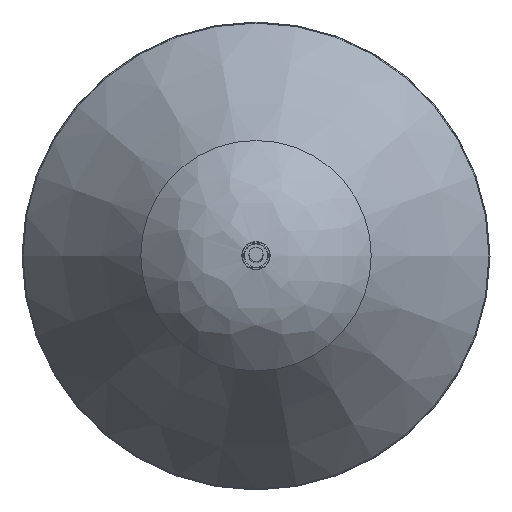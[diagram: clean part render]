
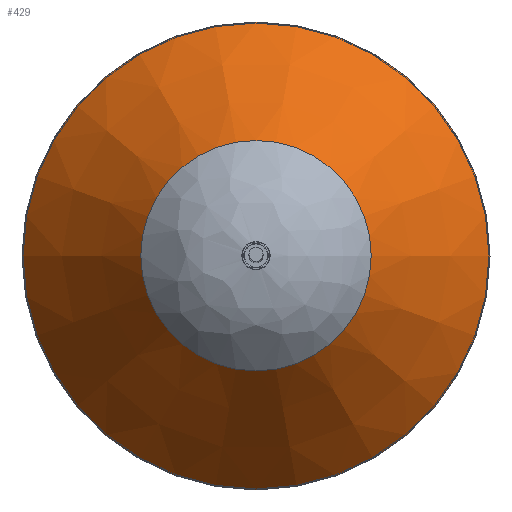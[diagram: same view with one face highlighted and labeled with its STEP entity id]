
A CAD part, top view. The second image highlights one B-rep face of the part: STEP entity #429.
In plain terms, the highlighted conical face has half-angle 36.372 degrees and reference radius 74.5 mm.
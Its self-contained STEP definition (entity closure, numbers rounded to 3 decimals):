
#28=CONICAL_SURFACE('',#495,74.5,0.635);
#64=FACE_OUTER_BOUND('',#101,.T.);
#101=EDGE_LOOP('',(#321,#322,#323,#324));
#135=LINE('',#768,#145);
#145=VECTOR('',#601,74.5);
#164=CIRCLE('',#494,99.413);
#165=CIRCLE('',#496,49.);
#211=VERTEX_POINT('',#763);
#212=VERTEX_POINT('',#767);
#252=EDGE_CURVE('',#211,#211,#164,.T.);
#253=EDGE_CURVE('',#211,#212,#135,.T.);
#254=EDGE_CURVE('',#212,#212,#165,.T.);
#321=ORIENTED_EDGE('',*,*,#252,.F.);
#322=ORIENTED_EDGE('',*,*,#253,.T.);
#323=ORIENTED_EDGE('',*,*,#254,.T.);
#324=ORIENTED_EDGE('',*,*,#253,.F.);
#429=ADVANCED_FACE('',(#64),#28,.T.);
#494=AXIS2_PLACEMENT_3D('',#765,#597,#598);
#495=AXIS2_PLACEMENT_3D('',#766,#599,#600);
#496=AXIS2_PLACEMENT_3D('',#769,#602,#603);
#597=DIRECTION('center_axis',(0.,0.,-1.));
#598=DIRECTION('ref_axis',(1.,0.,0.));
#599=DIRECTION('center_axis',(0.,0.,-1.));
#600=DIRECTION('ref_axis',(-1.,0.,0.));
#601=DIRECTION('',(-0.593,0.,0.805));
#602=DIRECTION('center_axis',(0.,0.,-1.));
#603=DIRECTION('ref_axis',(1.,0.,0.));
#763=CARTESIAN_POINT('',(99.413,0.,0.797));
#765=CARTESIAN_POINT('Origin',(0.,0.,0.797));
#766=CARTESIAN_POINT('Origin',(0.,0.,34.623));
#767=CARTESIAN_POINT('',(49.,0.,69.246));
#768=CARTESIAN_POINT('',(74.5,0.,34.623));
#769=CARTESIAN_POINT('Origin',(0.,0.,69.246));
